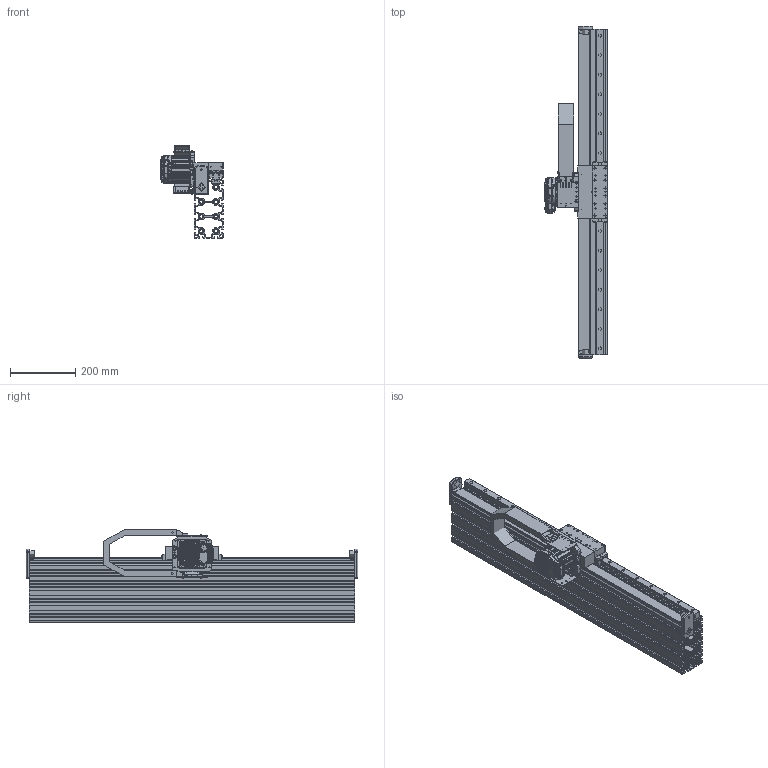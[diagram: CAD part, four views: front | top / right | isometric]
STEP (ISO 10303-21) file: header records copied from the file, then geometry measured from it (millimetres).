
FILE_DESCRIPTION( ( '' ), ' ' );
FILE_NAME( '/vol/tmp/translate-10969325197310754290/5c7fcec8d39c101b60405b7e.step', '2019-03-06T13:44:46', ( '' ), ( '' ), ' ', ' ', ' ' );
FILE_SCHEMA( ( 'AUTOMOTIVE_DESIGN { 1 0 10303 214 1 1 1 1 }' ) );
Length unit declared in the file: metre
Products named in the file (79): RAIL FASTENERS <5>; 100001-8065 M5-.80 X 25 ALLOY SHCS; 102684-001 BOSCH 10mm T-BLOCK M5; 20mm BEARING RAIL CAP; RAIL FASTENERS <1>; RAIL FASTENERS <9>; RAIL FASTENERS <10>; RAIL FASTENERS <12>; RAIL FASTENERS <4>; RAIL FASTENERS <7>; RAIL FASTENERS <6>; RAIL FASTENERS <16>; RAIL FASTENERS <15>; RAIL FASTENERS <3>; TRAY FASTENERS <2>; #8229; #8237; RAIL FASTENERS <14>; RAIL FASTENERS <13>; TRAY FASTENERS <3>; RAIL FASTENERS <17>; TRAY FASTENERS <5>; RAIL FASTENERS <8>; TRAY FASTENERS <1>; RAIL FASTENERS <2>; TRAY FASTENERS <4>; RAIL FASTENERS <11>; TRAY <1>; 102567-001 T5 X 32mm BELTING; 102610-005 VHB TAPE 1-1/4 WIDE; 102656-1000 SBL-M BELT TRAY; CPM34XX & PINION <1>; 100013-008 M4 X 6 SS SET SCREW; GENERIC CPM 342X; 102695-001 SERVOBELT PINION GEAR 15T .500 BORE; 104587-001 SBL-M DYNAMIC BEARING ASSEMBLY <2>; 103126-001 SBL-M BEARING SHAFT; 102638-005 5202 SHIELDED DOUBLE ROW BALL BEARING; RAIL <1>; 106888-001 20mm RAIL COVER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
Assembly tree (179 placements, depth 5):
  Assem1
    102977-001 LINKS
    102567-001 T5 X 32mm BELTING
    SBL-M CPM34XX MOTOR MOUNT <1>
      100003-005 M6 SS F/W  x4
      100007-016 M5-.80 SS HEX NUT  x4
      100011-8029 M5-.80 X 16 ALLOY FHCS  x4
      100001-074 M6-1.0 X 16 SS  SHCS  x4
      105432-001 SBL-M NEMA 34 MOTOR MOUNT (TEKNIC)
      CPM34XX & PINION <1>
        100013-008 M4 X 6 SS SET SCREW  x2
        GENERIC CPM 342X
        102695-001 SERVOBELT PINION GEAR 15T .500 BORE
    107186-001 SBL-M DRIVE BLOCK ASSEMBLY <1>
      102653-002 BEARING SPACER  x2
      100001-061 M5-.80 X 12 SS SHCS  x2
      100001-068 M5-.80 X 40 SS SHCS  x4
      105323-001 KEY 4mm SQUARE X 16mm LONG
      105272-001 SBL-M DRIVE MOUNT
      104587-001 SBL-M DYNAMIC BEARING ASSEMBLY <2>
        103126-001 SBL-M BEARING SHAFT
        102638-005 5202 SHIELDED DOUBLE ROW BALL BEARING  x2
      104587-001 SBL-M DYNAMIC BEARING ASSEMBLY <1>
        102638-005 5202 SHIELDED DOUBLE ROW BALL BEARING  x2
        103126-001 SBL-M BEARING SHAFT
    107185-001 SBL-M-90 BASE BLOCK WITH STANDARD BLOCKS <1>
      100001-8062 M5-.80 X 14 ALLOY SHCS  x8
      102523-001 REXROTH 20mm STD 4-HOLE BEARING BLOCK  x2
      105274-001 SBL-M 90 CARRIAGE BASE BLOCK
    103106-008 SBL-M MAX TRAVEL HARD STOP ASSEMBLY OPP <1>
      102893-001 SERVOBELT M BELT CLAMP
      102699-001 SERVOBELT END PLATE
      100011-032 M12-1.75 X 50 SS FLAT HEAD CAP SCREW
      102935-001 DOOR STOP
    1000 CHASSIS <1>
      102927-1000  90-SERIES PROFILE 90X180
      RAIL <1>
        106888-001 20mm RAIL COVER
        102732-1000 20mm STANDARD GUIDE RAIL
        RAIL FASTENERS <11>
          100001-8065 M5-.80 X 25 ALLOY SHCS
          20mm BEARING RAIL CAP
          102684-001 BOSCH 10mm T-BLOCK M5
        RAIL FASTENERS <12>
          20mm BEARING RAIL CAP
          102684-001 BOSCH 10mm T-BLOCK M5
          100001-8065 M5-.80 X 25 ALLOY SHCS
        RAIL FASTENERS <2>
          100001-8065 M5-.80 X 25 ALLOY SHCS
          20mm BEARING RAIL CAP
          102684-001 BOSCH 10mm T-BLOCK M5
        RAIL FASTENERS <9>
          20mm BEARING RAIL CAP
          100001-8065 M5-.80 X 25 ALLOY SHCS
          102684-001 BOSCH 10mm T-BLOCK M5
        RAIL FASTENERS <10>
          100001-8065 M5-.80 X 25 ALLOY SHCS
          20mm BEARING RAIL CAP
          102684-001 BOSCH 10mm T-BLOCK M5
        RAIL FASTENERS <1>
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Bounding box: 192.42 x 1019.05 x 285.3 mm (x, y, z)
Topology: 168 solids, 173 shells, 8590 faces, 22112 edges, 13931 vertices
Faces by surface type: plane 3336, cylinder 2502, bspline 1034, torus 890, cone 638, sphere 148, extrusion 40, revolution 2
Full cylindrical faces by diameter (mm): 0.152 x1, 2.2 x31, 2.261 x25, 2.44 x25, 2.47 x4, 2.5 x24, 2.6 x4, 2.66 x4, 2.997 x4, 3 x12, 3.175 x1, 3.184 x1, 3.2 x4, 3.3 x5, 3.4 x2, 3.454 x5, 4 x2, 4.166 x5, 4.2 x13, 4.216 x8, 4.5 x7, 5 x43, 5.004 x35, 5.156 x5, 5.284 x1, 5.5 x35, 5.563 x12, 5.6 x4, 5.85 x8, 6 x12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
Entity records: 358108 total; most frequent: CARTESIAN_POINT 140595, ORIENTED_EDGE 33580, DIRECTION 33120, EDGE_CURVE 16790, AXIS2_PLACEMENT_3D 13131, VERTEX_POINT 11050, EDGE_LOOP 8398, FACE_OUTER_BOUND 7648
